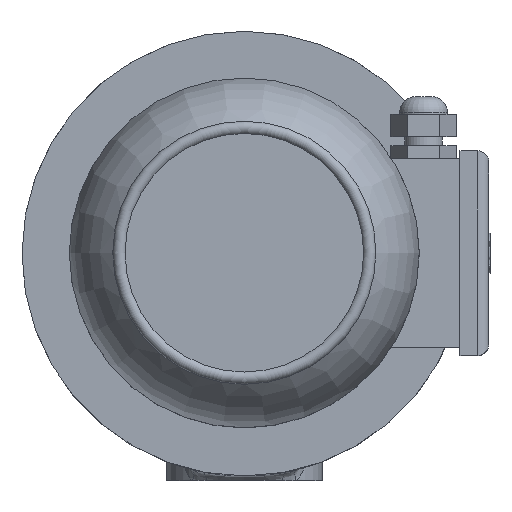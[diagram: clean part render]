
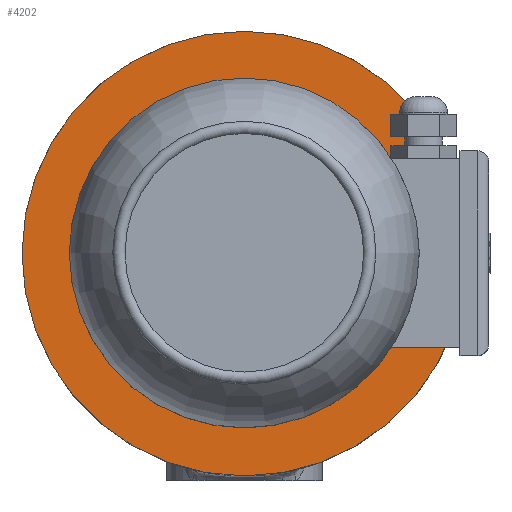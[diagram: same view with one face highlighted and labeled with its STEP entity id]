
A CAD part, top view. The second image highlights one B-rep face of the part: STEP entity #4202.
In plain terms, the highlighted planar face has unit normal (0, 0, 1).
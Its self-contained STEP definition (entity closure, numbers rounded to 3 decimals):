
#143=PLANE('',#4592);
#1274=ORIENTED_EDGE('',*,*,#2440,.F.);
#1275=ORIENTED_EDGE('',*,*,#2441,.T.);
#2440=EDGE_CURVE('',#3029,#3029,#3293,.T.);
#2441=EDGE_CURVE('',#3030,#3030,#3294,.T.);
#3029=VERTEX_POINT('',#7316);
#3030=VERTEX_POINT('',#7319);
#3293=CIRCLE('',#4591,100.);
#3294=CIRCLE('',#4593,65.993);
#3464=EDGE_LOOP('',(#1274));
#3465=EDGE_LOOP('',(#1275));
#3827=FACE_BOUND('',#3464,.T.);
#3828=FACE_BOUND('',#3465,.T.);
#4202=ADVANCED_FACE('',(#3827,#3828),#143,.T.);
#4591=AXIS2_PLACEMENT_3D('',#7315,#5174,#5175);
#4592=AXIS2_PLACEMENT_3D('',#7317,#5176,#5177);
#4593=AXIS2_PLACEMENT_3D('',#7318,#5178,#5179);
#5174=DIRECTION('',(0.,0.,-1.));
#5175=DIRECTION('',(-1.,0.,0.));
#5176=DIRECTION('',(0.,0.,1.));
#5177=DIRECTION('',(1.,0.,0.));
#5178=DIRECTION('',(0.,0.,-1.));
#5179=DIRECTION('',(-1.,0.,0.));
#7315=CARTESIAN_POINT('',(0.,0.,482.56));
#7316=CARTESIAN_POINT('',(-100.,0.,482.56));
#7317=CARTESIAN_POINT('',(-65.993,0.,482.56));
#7318=CARTESIAN_POINT('',(0.,0.,482.56));
#7319=CARTESIAN_POINT('',(-65.993,0.,482.56));
